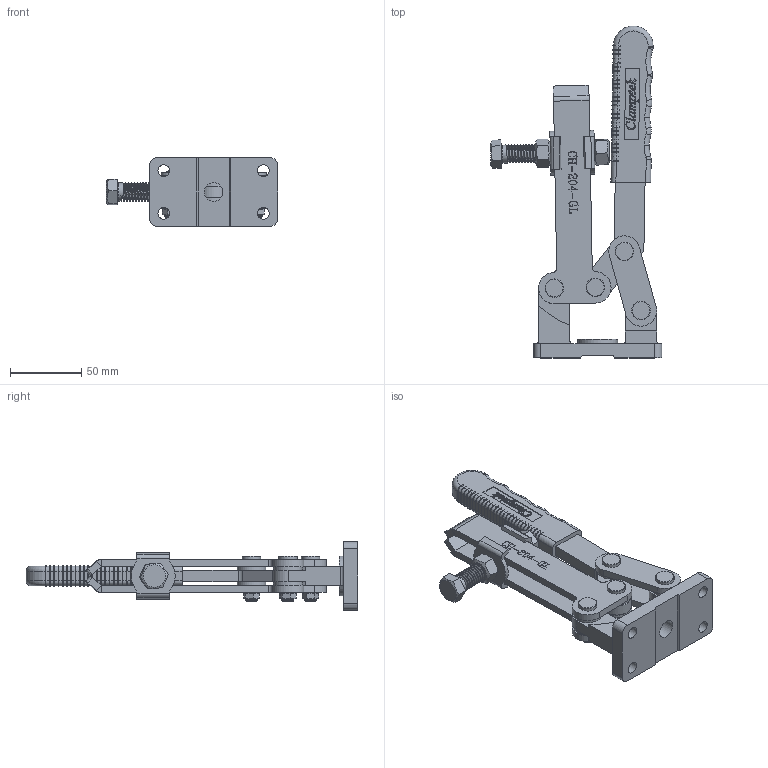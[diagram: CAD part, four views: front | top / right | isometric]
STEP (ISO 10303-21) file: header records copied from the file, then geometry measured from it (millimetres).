
FILE_DESCRIPTION(/* description */ ('STEP AP203'),/* implementation_level */ '2;1');
FILE_NAME(/* name */ 'E:\STRONA\Horizontal toggle clamp\CH-204-GL\CH-204-GL_OTWARTY.stp',/* time_stamp */ '2019-01-15T14:36:11+01:00',/* author */ ('Admin'),/* organization */ ('Microsoft'),/* preprocessor_version */ 'ST-DEVELOPER v17.2',/* originating_system */ 'Autodesk Inventor 2019',/* authorisation */ '');
FILE_SCHEMA (('AUTOMOTIVE_DESIGN { 1 0 10303 214 3 1 1 }'));
Products named in the file (15): CH-204-GL_OTWARTY; 201-G-01; 204-G-03; 204-GB-03; 204-GB-07; 204-GB-06; 204-GB-04; CH-FC-12300-01; CH-FC-12130; 204-G-02; M6; CH-204-GL-02; 204-G-03_1; CH-204-GL-01; FW120(2)
Assembly tree (32 placements, depth 3):
  CH-204-GL_OTWARTY
    201-G-01
    204-GB-06  x8
    204-G-03
      204-GB-03
      204-GB-07
    204-GB-04  x2
    FW120(2)  x2
    CH-FC-12300-01  x2
    CH-FC-12130
    204-G-02  x3
    204-G-03_1  x4
    M6  x4
    CH-204-GL-02
    CH-204-GL-01
Bounding box: 120.45 x 233.39 x 48 mm (x, y, z)
Volume: 196919.7 mm3; surface area: 98409.5 mm2
Topology: 31 solids, 31 shells, 3686 faces, 9897 edges, 6336 vertices
Faces by surface type: plane 2258, cylinder 980, bspline 279, cone 86, torus 77, sphere 6
Full cylindrical faces by diameter (mm): 2.973 x1, 3.099 x1, 4.8 x20, 6.9 x4, 7.9 x4, 8.3 x4, 9.5 x17, 10 x8, 10.2 x2, 10.5 x8, 12.7 x34, 13 x5, 14 x2, 14.1 x3, 20 x8, 28 x1
Entity records: 88329 total; most frequent: CARTESIAN_POINT 38123, ORIENTED_EDGE 10926, DIRECTION 9440, EDGE_CURVE 5463, LINE 3674, VECTOR 3674, VERTEX_POINT 3519, AXIS2_PLACEMENT_3D 2883
